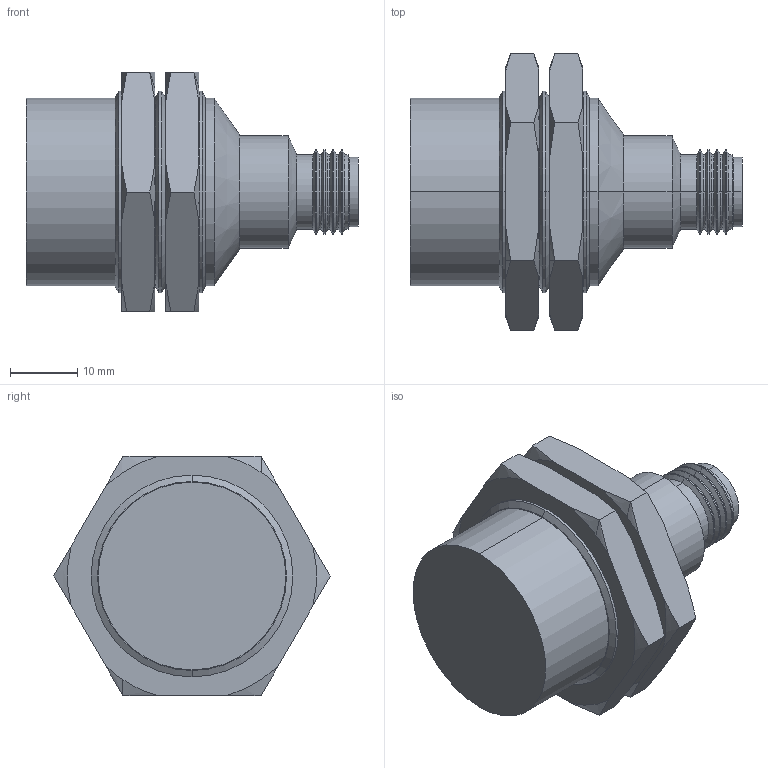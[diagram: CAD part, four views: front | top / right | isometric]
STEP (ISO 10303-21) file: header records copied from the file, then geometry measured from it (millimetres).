
FILE_DESCRIPTION (( 'STEP AP203' ), '1' );
FILE_NAME ('90-XXXX-029.STEP', '2015-10-28T13:20:33', ( 'Sam' ), ( 'Spade' ), 'SwSTEP 2.0', 'SolidWorks 2002296', '' );
FILE_SCHEMA (( 'CONFIG_CONTROL_DESIGN' ));
Length unit declared in the file: inch
Products named in the file (10): 90-XXXX-029; Imported285; Imported284; Imported286; Imported291; 49-9061; Imported289; Imported288; Imported290; Imported287
Assembly tree (9 placements, depth 2):
  90-XXXX-029
    Imported287
    Imported284
    49-9061
    Imported290
    Imported286
    Imported285
    Imported289
    Imported288
    Imported291
Bounding box: 49.43 x 41.15 x 35.64 mm (x, y, z)
Volume: 24572.8 mm3; surface area: 13668.8 mm2
Topology: 9 solids, 9 shells, 262 faces, 569 edges, 333 vertices
Faces by surface type: cone 100, cylinder 69, bspline 48, plane 45
Entity records: 8917 total; most frequent: CARTESIAN_POINT 2268, DIRECTION 1229, ORIENTED_EDGE 1126, EDGE_CURVE 563, AXIS2_PLACEMENT_3D 506, VERTEX_POINT 333, EDGE_LOOP 282, CIRCLE 280
